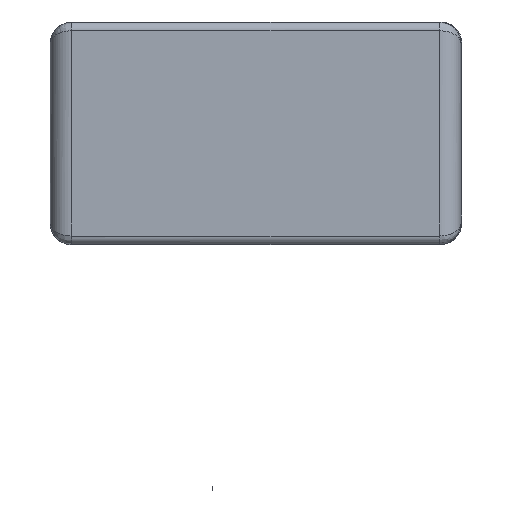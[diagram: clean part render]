
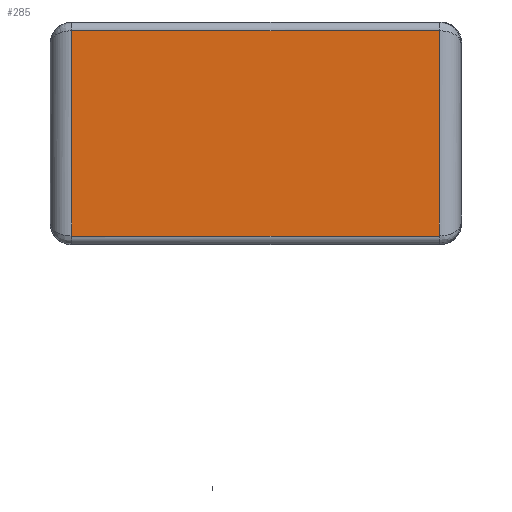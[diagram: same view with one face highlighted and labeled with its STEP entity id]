
A CAD part, top view. The second image highlights one B-rep face of the part: STEP entity #285.
In plain terms, the highlighted planar face has unit normal (0, 0, 1).
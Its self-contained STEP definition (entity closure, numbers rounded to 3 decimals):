
#285=ADVANCED_FACE('',(#10235),#10237,.T.);
#10235=FACE_BOUND('',#10236,.T.);
#10236=EDGE_LOOP('',(#28000,#28001,#28002,#28003));
#10237=PLANE('',#10238);
#10238=AXIS2_PLACEMENT_3D('',#10239,#10240,#10241);
#10239=CARTESIAN_POINT('',(20.55,48.929,5.8));
#10240=DIRECTION('',(0.,0.,1.));
#10241=DIRECTION('',(0.,-1.,0.));
#28000=ORIENTED_EDGE('',*,*,#33758,.T.);
#28001=ORIENTED_EDGE('',*,*,#33756,.T.);
#28002=ORIENTED_EDGE('',*,*,#33752,.T.);
#28003=ORIENTED_EDGE('',*,*,#33749,.T.);
#33749=EDGE_CURVE('',#36692,#36689,#36693,.T.);
#33752=EDGE_CURVE('',#36696,#36692,#36697,.T.);
#33756=EDGE_CURVE('',#36700,#36696,#36702,.T.);
#33758=EDGE_CURVE('',#36689,#36700,#36704,.T.);
#36689=VERTEX_POINT('',#41752);
#36692=VERTEX_POINT('',#41811);
#36693=LINE('',#41812,#41813);
#36696=VERTEX_POINT('',#41883);
#36697=LINE('',#41884,#41885);
#36700=VERTEX_POINT('',#41953);
#36702=LINE('',#42015,#42016);
#36704=LINE('',#42030,#42031);
#41752=CARTESIAN_POINT('',(42.05,60.929,5.8));
#41811=CARTESIAN_POINT('',(42.05,36.929,5.8));
#41812=CARTESIAN_POINT('',(42.05,36.929,5.8));
#41813=VECTOR('',#41814,1.);
#41814=DIRECTION('',(0.,1.,0.));
#41883=CARTESIAN_POINT('',(-0.95,36.929,5.8));
#41884=CARTESIAN_POINT('',(-0.95,36.929,5.8));
#41885=VECTOR('',#41886,1.);
#41886=DIRECTION('',(1.,0.,0.));
#41953=CARTESIAN_POINT('',(-0.95,60.929,5.8));
#42015=CARTESIAN_POINT('',(-0.95,60.929,5.8));
#42016=VECTOR('',#42017,1.);
#42017=DIRECTION('',(0.,-1.,0.));
#42030=CARTESIAN_POINT('',(42.05,60.929,5.8));
#42031=VECTOR('',#42032,1.);
#42032=DIRECTION('',(-1.,0.,0.));
